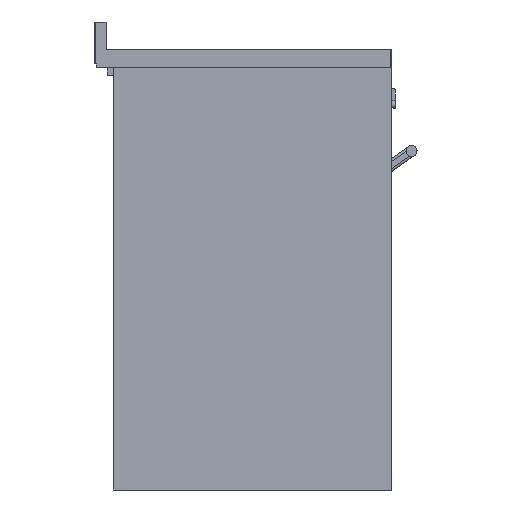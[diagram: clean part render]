
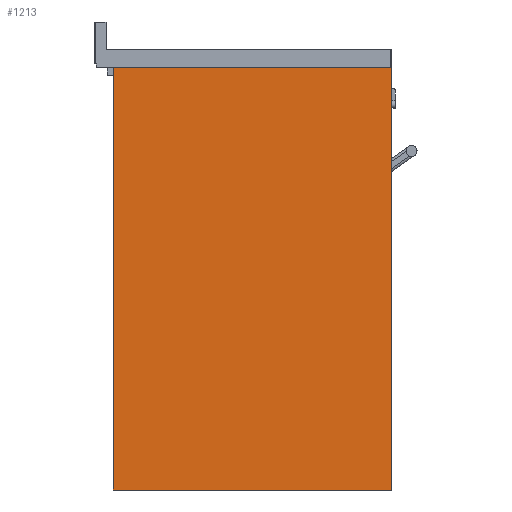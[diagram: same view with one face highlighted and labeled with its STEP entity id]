
A CAD part, left-side view. The second image highlights one B-rep face of the part: STEP entity #1213.
In plain terms, the highlighted planar face has unit normal (-1, 0, 0).
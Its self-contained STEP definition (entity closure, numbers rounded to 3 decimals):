
#406=PLANE('',#7571);
#748=FACE_OUTER_BOUND('',#3182,.T.);
#1213=ADVANCED_FACE('',(#748),#406,.T.);
#1799=LINE('',#11320,#2357);
#1803=LINE('',#11329,#2361);
#1806=LINE('',#11335,#2364);
#1809=LINE('',#11341,#2367);
#2357=VECTOR('',#8828,1.);
#2361=VECTOR('',#8834,1.);
#2364=VECTOR('',#8839,1.);
#2367=VECTOR('',#8844,1.);
#3182=EDGE_LOOP('',(#4250,#4251,#4252,#4253));
#4250=ORIENTED_EDGE('',*,*,#6345,.T.);
#4251=ORIENTED_EDGE('',*,*,#6349,.T.);
#4252=ORIENTED_EDGE('',*,*,#6352,.T.);
#4253=ORIENTED_EDGE('',*,*,#6355,.T.);
#5596=VERTEX_POINT('',#11321);
#5597=VERTEX_POINT('',#11322);
#5600=VERTEX_POINT('',#11330);
#5602=VERTEX_POINT('',#11336);
#6345=EDGE_CURVE('',#5596,#5597,#1799,.T.);
#6349=EDGE_CURVE('',#5597,#5600,#1803,.T.);
#6352=EDGE_CURVE('',#5600,#5602,#1806,.T.);
#6355=EDGE_CURVE('',#5602,#5596,#1809,.T.);
#7571=AXIS2_PLACEMENT_3D('',#11345,#8850,#8851);
#8828=DIRECTION('',(0.,-1.,0.));
#8834=DIRECTION('',(0.,0.,1.));
#8839=DIRECTION('',(0.,1.,0.));
#8844=DIRECTION('',(0.,0.,-1.));
#8850=DIRECTION('',(-1.,0.,0.));
#8851=DIRECTION('',(0.,1.,0.));
#11320=CARTESIAN_POINT('',(185.066,471.808,-11.445));
#11321=CARTESIAN_POINT('',(185.066,471.808,-11.445));
#11322=CARTESIAN_POINT('',(185.066,-93.192,-11.445));
#11329=CARTESIAN_POINT('',(185.066,-93.192,-11.445));
#11330=CARTESIAN_POINT('',(185.066,-93.192,846.555));
#11335=CARTESIAN_POINT('',(185.066,-93.192,846.555));
#11336=CARTESIAN_POINT('',(185.066,471.808,846.555));
#11341=CARTESIAN_POINT('',(185.066,471.808,846.555));
#11345=CARTESIAN_POINT('',(185.066,-93.192,-11.445));
